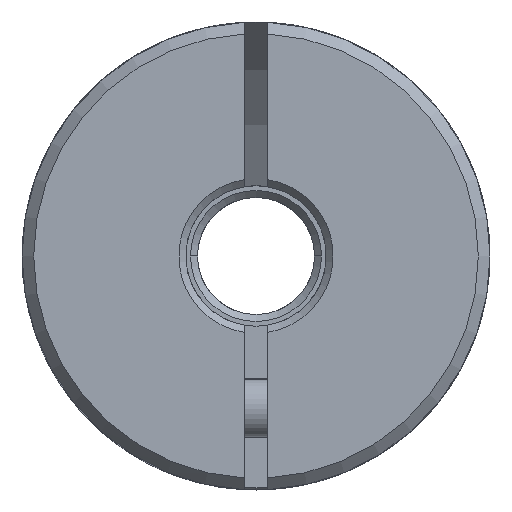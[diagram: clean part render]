
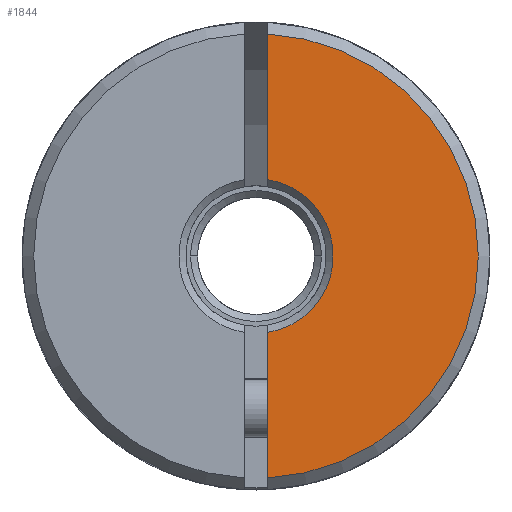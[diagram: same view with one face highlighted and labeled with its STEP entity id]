
A CAD part, front view. The second image highlights one B-rep face of the part: STEP entity #1844.
In plain terms, the highlighted planar face has unit normal (0, -1, 0).
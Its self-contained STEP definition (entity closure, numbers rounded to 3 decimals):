
#882 = VERTEX_POINT ( 'NONE', #7894 ) ;
#1016 = AXIS2_PLACEMENT_3D ( 'NONE', #9218, #6068, #5931 ) ;
#1844 = ADVANCED_FACE ( 'NONE', ( #1987 ), #3142, .F. ) ;
#1987 = FACE_OUTER_BOUND ( 'NONE', #5658, .T. ) ;
#2392 = CARTESIAN_POINT ( 'NONE',  ( 0., -33., 0. ) ) ;
#2978 = CARTESIAN_POINT ( 'NONE',  ( 0.5, -33., -3.262 ) ) ;
#3142 = PLANE ( 'NONE',  #8299 ) ;
#3329 = LINE ( 'NONE', #8651, #8942 ) ;
#3477 = DIRECTION ( 'NONE',  ( 0., 0., 1. ) ) ;
#4033 = CARTESIAN_POINT ( 'NONE',  ( 0.5, -33., -9.487 ) ) ;
#4510 = EDGE_CURVE ( 'NONE', #8596, #5588, #9947, .T. ) ;
#5436 = ORIENTED_EDGE ( 'NONE', *, *, #7198, .F. ) ;
#5552 = ORIENTED_EDGE ( 'NONE', *, *, #4510, .F. ) ;
#5572 = CIRCLE ( 'NONE', #6883, 9.5 ) ;
#5588 = VERTEX_POINT ( 'NONE', #2978 ) ;
#5658 = EDGE_LOOP ( 'NONE', ( #5552, #9641, #5436, #8689 ) ) ;
#5931 = DIRECTION ( 'NONE',  ( 0., 0., -1. ) ) ;
#6068 = DIRECTION ( 'NONE',  ( 0., 1., 0. ) ) ;
#6193 = CIRCLE ( 'NONE', #1016, 3.3 ) ;
#6317 = DIRECTION ( 'NONE',  ( 0., 0., 1. ) ) ;
#6356 = DIRECTION ( 'NONE',  ( 0., 1., 0. ) ) ;
#6528 = CARTESIAN_POINT ( 'NONE',  ( 0.5, -33., -12.292 ) ) ;
#6600 = VECTOR ( 'NONE', #3477, 1000. ) ;
#6651 = EDGE_CURVE ( 'NONE', #8596, #882, #5572, .T. ) ;
#6883 = AXIS2_PLACEMENT_3D ( 'NONE', #2392, #9524, #7948 ) ;
#7198 = EDGE_CURVE ( 'NONE', #7280, #882, #3329, .T. ) ;
#7280 = VERTEX_POINT ( 'NONE', #9728 ) ;
#7580 = EDGE_CURVE ( 'NONE', #7280, #5588, #6193, .T. ) ;
#7894 = CARTESIAN_POINT ( 'NONE',  ( 0.5, -33., 9.487 ) ) ;
#7948 = DIRECTION ( 'NONE',  ( 0., 0., -1. ) ) ;
#8002 = DIRECTION ( 'NONE',  ( 0., 0., -1. ) ) ;
#8299 = AXIS2_PLACEMENT_3D ( 'NONE', #8649, #6356, #8002 ) ;
#8596 = VERTEX_POINT ( 'NONE', #4033 ) ;
#8649 = CARTESIAN_POINT ( 'NONE',  ( 50., -33., -12.292 ) ) ;
#8651 = CARTESIAN_POINT ( 'NONE',  ( 0.5, -33., -12.292 ) ) ;
#8689 = ORIENTED_EDGE ( 'NONE', *, *, #7580, .T. ) ;
#8942 = VECTOR ( 'NONE', #6317, 1000. ) ;
#9218 = CARTESIAN_POINT ( 'NONE',  ( 0., -33., 0. ) ) ;
#9524 = DIRECTION ( 'NONE',  ( 0., -1., 0. ) ) ;
#9641 = ORIENTED_EDGE ( 'NONE', *, *, #6651, .T. ) ;
#9728 = CARTESIAN_POINT ( 'NONE',  ( 0.5, -33., 3.262 ) ) ;
#9947 = LINE ( 'NONE', #6528, #6600 ) ;
